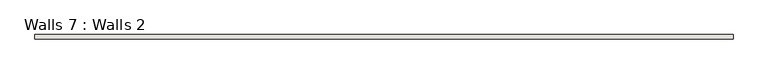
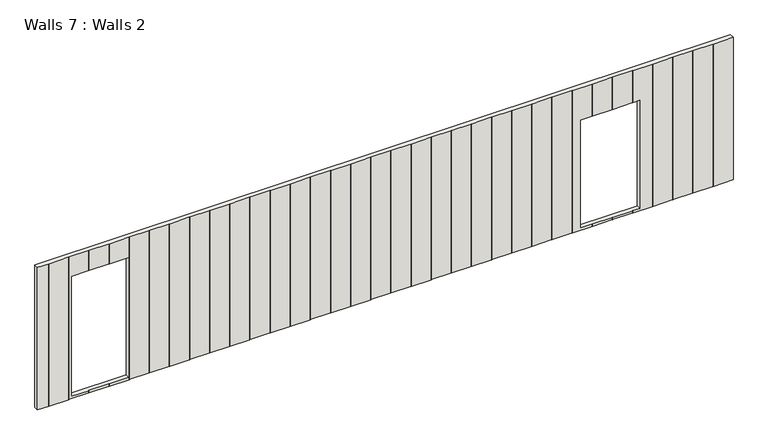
"""IFC4 building model written with IfcOpenShell, lengths in millimetres: wall geometry, Walls 7 : Walls 2."""

from ifc_helpers import new_model, si_unit, origin, place, context, project, spatial, faceted_brep, source, transform, mapped, element, save


def walls_7_walls_2_cd0bb462(model_context):
    return source(origin(), model_context, "Body", "Brep", [
        faceted_brep([(19718.9536405, 537.3490616, 3311.0), (6006.9536405, 537.3490616, 3311.0), (6006.9536405, 450.3490616, 3311.0), (6225.0336405, 450.3490616, 3311.0), (6226.9136405, 448.4690616, 3311.0), (6228.7936405, 450.3490616, 3311.0), (6621.9136405, 450.3490616, 3311.0), (6623.7936405, 448.4690616, 3311.0), (6625.6736405, 450.3490616, 3311.0), (7018.7936405, 450.3490616, 3311.0), (7020.6736405, 448.4690616, 3311.0), (7022.5536405, 450.3490616, 3311.0), (7415.6736405, 450.3490616, 3311.0), (7417.5536405, 448.4690616, 3311.0), (7419.4336405, 450.3490616, 3311.0), (7812.5536405, 450.3490616, 3311.0), (7814.4336405, 448.4690616, 3311.0), (7816.3136405, 450.3490616, 3311.0), (8209.4336405, 450.3490616, 3311.0), (8211.3136405, 448.4690616, 3311.0), (8213.1936405, 450.3490616, 3311.0), (8606.3136405, 450.3490616, 3311.0), (8608.1936405, 448.4690616, 3311.0), (8610.0736405, 450.3490616, 3311.0), (9003.1936405, 450.3490616, 3311.0), (9005.0736405, 448.4690616, 3311.0), (9006.9536405, 450.3490616, 3311.0), (9400.0736405, 450.3490616, 3311.0), (9401.9536405, 448.4690616, 3311.0), (9403.8336405, 450.3490616, 3311.0), (9796.9536405, 450.3490616, 3311.0), (9798.8336405, 448.4690616, 3311.0), (9800.7136405, 450.3490616, 3311.0), (10193.8336405, 450.3490616, 3311.0), (10195.7136405, 448.4690616, 3311.0), (10197.5936405, 450.3490616, 3311.0), (10590.7136405, 450.3490616, 3311.0), (10592.5936405, 448.4690616, 3311.0), (10594.4736405, 450.3490616, 3311.0), (10987.5936405, 450.3490616, 3311.0), (10989.4736405, 448.4690616, 3311.0), (10991.3536405, 450.3490616, 3311.0), (11384.4736405, 450.3490616, 3311.0), (11386.3536405, 448.4690616, 3311.0), (11388.2336405, 450.3490616, 3311.0), (11781.3536405, 450.3490616, 3311.0), (11783.2336405, 448.4690616, 3311.0), (11785.1136405, 450.3490616, 3311.0), (12178.2336405, 450.3490616, 3311.0), (12180.1136405, 448.4690616, 3311.0), (12181.9936405, 450.3490616, 3311.0), (12575.1136405, 450.3490616, 3311.0), (12576.9936405, 448.4690616, 3311.0), (12578.8736405, 450.3490616, 3311.0), (12971.9936405, 450.3490616, 3311.0), (12973.8736405, 448.4690616, 3311.0), (12975.7536405, 450.3490616, 3311.0), (13368.8736405, 450.3490616, 3311.0), (13370.7536405, 448.4690616, 3311.0), (13372.6336405, 450.3490616, 3311.0), (13765.7536405, 450.3490616, 3311.0), (13767.6336405, 448.4690616, 3311.0), (13769.5136405, 450.3490616, 3311.0), (14162.6336405, 450.3490616, 3311.0), (14164.5136405, 448.4690616, 3311.0), (14166.3936405, 450.3490616, 3311.0), (14559.5136405, 450.3490616, 3311.0), (14561.3936405, 448.4690616, 3311.0), (14563.2736405, 450.3490616, 3311.0), (14956.3936405, 450.3490616, 3311.0), (14958.2736405, 448.4690616, 3311.0), (14960.1536405, 450.3490616, 3311.0), (15353.2736405, 450.3490616, 3311.0), (15355.1536405, 448.4690616, 3311.0), (15357.0336405, 450.3490616, 3311.0), (15750.1536405, 450.3490616, 3311.0), (15752.0336405, 448.4690616, 3311.0), (15753.9136405, 450.3490616, 3311.0), (16147.0336405, 450.3490616, 3311.0), (16148.9136405, 448.4690616, 3311.0), (16150.7936405, 450.3490616, 3311.0), (16543.9136405, 450.3490616, 3311.0), (16545.7936405, 448.4690616, 3311.0), (16547.6736405, 450.3490616, 3311.0), (16940.7936405, 450.3490616, 3311.0), (16942.6736405, 448.4690616, 3311.0), (16944.5536405, 450.3490616, 3311.0), (17337.6736405, 450.3490616, 3311.0), (17339.5536405, 448.4690616, 3311.0), (17341.4336405, 450.3490616, 3311.0), (17734.5536405, 450.3490616, 3311.0), (17736.4336405, 448.4690616, 3311.0), (17738.3136405, 450.3490616, 3311.0), (18131.4336405, 450.3490616, 3311.0), (18133.3136405, 448.4690616, 3311.0), (18135.1936405, 450.3490616, 3311.0), (18528.3136405, 450.3490616, 3311.0), (18530.1936405, 448.4690616, 3311.0), (18532.0736405, 450.3490616, 3311.0), (18925.1936405, 450.3490616, 3311.0), (18927.0736405, 448.4690616, 3311.0), (18928.9536405, 450.3490616, 3311.0), (19322.0736405, 450.3490616, 3311.0), (19323.9536405, 448.4690616, 3311.0), (19325.8336405, 450.3490616, 3311.0), (19718.9536405, 450.3490616, 3311.0), (6006.9536405, 537.3490616, 340.0), (19718.9536405, 537.3490616, 340.0), (19718.9536405, 450.3490616, 340.0), (19325.8336405, 450.3490616, 340.0), (19323.9536405, 448.4690616, 340.0), (19322.0736405, 450.3490616, 340.0), (18928.9536405, 450.3490616, 340.0), (18927.0736405, 448.4690616, 340.0), (18925.1936405, 450.3490616, 340.0), (18532.0736405, 450.3490616, 340.0), (18530.1936405, 448.4690616, 340.0), (18528.3136405, 450.3490616, 340.0), (18135.1936405, 450.3490616, 340.0), (18133.3136405, 448.4690616, 340.0), (18131.4336405, 450.3490616, 340.0), (17738.3136405, 450.3490616, 340.0), (17736.4336405, 448.4690616, 340.0), (17734.5536405, 450.3490616, 340.0), (17341.4336405, 450.3490616, 340.0), (17339.5536405, 448.4690616, 340.0), (17337.6736405, 450.3490616, 340.0), (16944.5536405, 450.3490616, 340.0), (16942.6736405, 448.4690616, 340.0), (16940.7936405, 450.3490616, 340.0), (16547.6736405, 450.3490616, 340.0), (16545.7936405, 448.4690616, 340.0), (16543.9136405, 450.3490616, 340.0), (16150.7936405, 450.3490616, 340.0), (16148.9136405, 448.4690616, 340.0), (16147.0336405, 450.3490616, 340.0), (15753.9136405, 450.3490616, 340.0), (15752.0336405, 448.4690616, 340.0), (15750.1536405, 450.3490616, 340.0), (15357.0336405, 450.3490616, 340.0), (15355.1536405, 448.4690616, 340.0), (15353.2736405, 450.3490616, 340.0), (14960.1536405, 450.3490616, 340.0), (14958.2736405, 448.4690616, 340.0), (14956.3936405, 450.3490616, 340.0), (14563.2736405, 450.3490616, 340.0), (14561.3936405, 448.4690616, 340.0), (14559.5136405, 450.3490616, 340.0), (14166.3936405, 450.3490616, 340.0), (14164.5136405, 448.4690616, 340.0), (14162.6336405, 450.3490616, 340.0), (13769.5136405, 450.3490616, 340.0), (13767.6336405, 448.4690616, 340.0), (13765.7536405, 450.3490616, 340.0), (13372.6336405, 450.3490616, 340.0), (13370.7536405, 448.4690616, 340.0), (13368.8736405, 450.3490616, 340.0), (12975.7536405, 450.3490616, 340.0), (12973.8736405, 448.4690616, 340.0), (12971.9936405, 450.3490616, 340.0), (12578.8736405, 450.3490616, 340.0), (12576.9936405, 448.4690616, 340.0), (12575.1136405, 450.3490616, 340.0), (12181.9936405, 450.3490616, 340.0), (12180.1136405, 448.4690616, 340.0), (12178.2336405, 450.3490616, 340.0), (11785.1136405, 450.3490616, 340.0), (11783.2336405, 448.4690616, 340.0), (11781.3536405, 450.3490616, 340.0), (11388.2336405, 450.3490616, 340.0), (11386.3536405, 448.4690616, 340.0), (11384.4736405, 450.3490616, 340.0), (10991.3536405, 450.3490616, 340.0), (10989.4736405, 448.4690616, 340.0), (10987.5936405, 450.3490616, 340.0), (10594.4736405, 450.3490616, 340.0), (10592.5936405, 448.4690616, 340.0), (10590.7136405, 450.3490616, 340.0), (10197.5936405, 450.3490616, 340.0), (10195.7136405, 448.4690616, 340.0), (10193.8336405, 450.3490616, 340.0), (9800.7136405, 450.3490616, 340.0), (9798.8336405, 448.4690616, 340.0), (9796.9536405, 450.3490616, 340.0), (9403.8336405, 450.3490616, 340.0), (9401.9536405, 448.4690616, 340.0), (9400.0736405, 450.3490616, 340.0), (9006.9536405, 450.3490616, 340.0), (9005.0736405, 448.4690616, 340.0), (9003.1936405, 450.3490616, 340.0), (8610.0736405, 450.3490616, 340.0), (8608.1936405, 448.4690616, 340.0), (8606.3136405, 450.3490616, 340.0), (8213.1936405, 450.3490616, 340.0), (8211.3136405, 448.4690616, 340.0), (8209.4336405, 450.3490616, 340.0), (7816.3136405, 450.3490616, 340.0), (7814.4336405, 448.4690616, 340.0), (7812.5536405, 450.3490616, 340.0), (7419.4336405, 450.3490616, 340.0), (7417.5536405, 448.4690616, 340.0), (7415.6736405, 450.3490616, 340.0), (7022.5536405, 450.3490616, 340.0), (7020.6736405, 448.4690616, 340.0), (7018.7936405, 450.3490616, 340.0), (6625.6736405, 450.3490616, 340.0), (6623.7936405, 448.4690616, 340.0), (6621.9136405, 450.3490616, 340.0), (6228.7936405, 450.3490616, 340.0), (6226.9136405, 448.4690616, 340.0), (6225.0336405, 450.3490616, 340.0), (6006.9536405, 450.3490616, 340.0), (6672.4896405, 537.3490616, 2891.3882081), (6672.4896405, 537.3490616, 387.5), (7805.2660568, 537.3490616, 387.5), (7805.2660568, 537.3490616, 2891.3882081), (16703.354026, 537.3490616, 2641.5), (16703.354026, 537.3490616, 387.5), (17878.354026, 537.3490616, 387.5), (17878.354026, 537.3490616, 2641.5), (7018.7936405, 450.3490616, 387.5), (6672.4896405, 450.3490616, 387.5), (6672.4896405, 450.3490616, 2891.3882081), (7018.7936405, 450.3490616, 2891.3882081), (7020.6736405, 448.4690616, 2891.3882081), (7020.6736405, 448.4690616, 387.5), (7022.5536405, 450.3490616, 2891.3882081), (7022.5536405, 450.3490616, 387.5), (7415.6736405, 450.3490616, 2891.3882081), (7415.6736405, 450.3490616, 387.5), (7417.5536405, 448.4690616, 2891.3882081), (7417.5536405, 448.4690616, 387.5), (7419.4336405, 450.3490616, 2891.3882081), (7419.4336405, 450.3490616, 387.5), (7805.2660568, 450.3490616, 2891.3882081), (7805.2660568, 450.3490616, 387.5), (16940.7936405, 450.3490616, 387.5), (16703.354026, 450.3490616, 387.5), (16703.354026, 450.3490616, 2641.5), (16940.7936405, 450.3490616, 2641.5), (16942.6736405, 448.4690616, 2641.5), (16942.6736405, 448.4690616, 387.5), (16944.5536405, 450.3490616, 2641.5), (16944.5536405, 450.3490616, 387.5), (17337.6736405, 450.3490616, 2641.5), (17337.6736405, 450.3490616, 387.5), (17339.5536405, 448.4690616, 2641.5), (17339.5536405, 448.4690616, 387.5), (17341.4336405, 450.3490616, 2641.5), (17341.4336405, 450.3490616, 387.5), (17734.5536405, 450.3490616, 2641.5), (17734.5536405, 450.3490616, 387.5), (17736.4336405, 448.4690616, 2641.5), (17736.4336405, 448.4690616, 387.5), (17738.3136405, 450.3490616, 2641.5), (17738.3136405, 450.3490616, 387.5), (17878.354026, 450.3490616, 2641.5), (17878.354026, 450.3490616, 387.5)], [[[0, 1, 2, 3, 4, 5, 6, 7, 8, 9, 10, 11, 12, 13, 14, 15, 16, 17, 18, 19, 20, 21, 22, 23, 24, 25, 26, 27, 28, 29, 30, 31, 32, 33, 34, 35, 36, 37, 38, 39, 40, 41, 42, 43, 44, 45, 46, 47, 48, 49, 50, 51, 52, 53, 54, 55, 56, 57, 58, 59, 60, 61, 62, 63, 64, 65, 66, 67, 68, 69, 70, 71, 72, 73, 74, 75, 76, 77, 78, 79, 80, 81, 82, 83, 84, 85, 86, 87, 88, 89, 90, 91, 92, 93, 94, 95, 96, 97, 98, 99, 100, 101, 102, 103, 104, 105]], [[106, 107, 108, 109, 110, 111, 112, 113, 114, 115, 116, 117, 118, 119, 120, 121, 122, 123, 124, 125, 126, 127, 128, 129, 130, 131, 132, 133, 134, 135, 136, 137, 138, 139, 140, 141, 142, 143, 144, 145, 146, 147, 148, 149, 150, 151, 152, 153, 154, 155, 156, 157, 158, 159, 160, 161, 162, 163, 164, 165, 166, 167, 168, 169, 170, 171, 172, 173, 174, 175, 176, 177, 178, 179, 180, 181, 182, 183, 184, 185, 186, 187, 188, 189, 190, 191, 192, 193, 194, 195, 196, 197, 198, 199, 200, 201, 202, 203, 204, 205, 206, 207, 208, 209, 210, 211]], [[107, 106, 1, 0], [212, 213, 214, 215], [216, 217, 218, 219]], [[106, 211, 2, 1]], [[0, 105, 108, 107]], [[3, 2, 211, 210]], [[4, 3, 210, 209]], [[5, 4, 209, 208]], [[6, 5, 208, 207]], [[7, 6, 207, 206]], [[8, 7, 206, 205]], [[9, 8, 205, 204, 220, 221, 222, 223]], [[10, 9, 223, 224]], [[204, 203, 225, 220]], [[11, 10, 224, 226]], [[203, 202, 227, 225]], [[12, 11, 226, 228]], [[202, 201, 229, 227]], [[13, 12, 228, 230]], [[201, 200, 231, 229]], [[14, 13, 230, 232]], [[200, 199, 233, 231]], [[15, 14, 232, 234, 235, 233, 199, 198]], [[16, 15, 198, 197]], [[17, 16, 197, 196]], [[18, 17, 196, 195]], [[19, 18, 195, 194]], [[20, 19, 194, 193]], [[21, 20, 193, 192]], [[22, 21, 192, 191]], [[23, 22, 191, 190]], [[24, 23, 190, 189]], [[25, 24, 189, 188]], [[26, 25, 188, 187]], [[27, 26, 187, 186]], [[28, 27, 186, 185]], [[29, 28, 185, 184]], [[30, 29, 184, 183]], [[31, 30, 183, 182]], [[32, 31, 182, 181]], [[33, 32, 181, 180]], [[34, 33, 180, 179]], [[35, 34, 179, 178]], [[36, 35, 178, 177]], [[37, 36, 177, 176]], [[38, 37, 176, 175]], [[39, 38, 175, 174]], [[40, 39, 174, 173]], [[41, 40, 173, 172]], [[42, 41, 172, 171]], [[43, 42, 171, 170]], [[44, 43, 170, 169]], [[45, 44, 169, 168]], [[46, 45, 168, 167]], [[47, 46, 167, 166]], [[48, 47, 166, 165]], [[49, 48, 165, 164]], [[50, 49, 164, 163]], [[51, 50, 163, 162]], [[52, 51, 162, 161]], [[53, 52, 161, 160]], [[54, 53, 160, 159]], [[55, 54, 159, 158]], [[56, 55, 158, 157]], [[57, 56, 157, 156]], [[58, 57, 156, 155]], [[59, 58, 155, 154]], [[60, 59, 154, 153]], [[61, 60, 153, 152]], [[62, 61, 152, 151]], [[63, 62, 151, 150]], [[64, 63, 150, 149]], [[65, 64, 149, 148]], [[66, 65, 148, 147]], [[67, 66, 147, 146]], [[68, 67, 146, 145]], [[69, 68, 145, 144]], [[70, 69, 144, 143]], [[71, 70, 143, 142]], [[72, 71, 142, 141]], [[73, 72, 141, 140]], [[74, 73, 140, 139]], [[75, 74, 139, 138]], [[76, 75, 138, 137]], [[77, 76, 137, 136]], [[78, 77, 136, 135]], [[79, 78, 135, 134]], [[80, 79, 134, 133]], [[81, 80, 133, 132]], [[82, 81, 132, 131]], [[83, 82, 131, 130]], [[84, 83, 130, 129, 236, 237, 238, 239]], [[85, 84, 239, 240]], [[129, 128, 241, 236]], [[86, 85, 240, 242]], [[128, 127, 243, 241]], [[87, 86, 242, 244]], [[127, 126, 245, 243]], [[88, 87, 244, 246]], [[126, 125, 247, 245]], [[89, 88, 246, 248]], [[125, 124, 249, 247]], [[90, 89, 248, 250]], [[124, 123, 251, 249]], [[91, 90, 250, 252]], [[123, 122, 253, 251]], [[92, 91, 252, 254]], [[122, 121, 255, 253]], [[93, 92, 254, 256, 257, 255, 121, 120]], [[94, 93, 120, 119]], [[95, 94, 119, 118]], [[96, 95, 118, 117]], [[97, 96, 117, 116]], [[98, 97, 116, 115]], [[99, 98, 115, 114]], [[100, 99, 114, 113]], [[101, 100, 113, 112]], [[102, 101, 112, 111]], [[103, 102, 111, 110]], [[104, 103, 110, 109]], [[105, 104, 109, 108]], [[221, 213, 212, 222]], [[222, 212, 215, 234, 232, 230, 228, 226, 224, 223]], [[234, 215, 214, 235]], [[213, 221, 220, 225, 227, 229, 231, 233, 235, 214]], [[237, 217, 216, 238]], [[238, 216, 219, 256, 254, 252, 250, 248, 246, 244, 242, 240, 239]], [[256, 219, 218, 257]], [[217, 237, 236, 241, 243, 245, 247, 249, 251, 253, 255, 257, 218]]]),
    ])


if __name__ == "__main__":
    model = new_model("IFC4")
    model_context = context("Model", 3, world=origin())
    ifc_project = project(units=[si_unit("LENGTHUNIT", "METRE", prefix="MILLI")], contexts=[model_context])
    site = spatial("IfcSite", under=ifc_project)
    building = spatial("IfcBuilding", under=site)
    placement = place(None, origin())
    walls_7_walls_2_shape = walls_7_walls_2_cd0bb462(model_context)
    element("IfcWall", 1, ObjectType="Walls 7 : Walls 2", at=placement, inside=building, context=model_context, shape_type="MappedRepresentation", body=[
        mapped(walls_7_walls_2_shape, transform((0.0, 0.0, 0.0), x_axis=(1.0, 0.0, 0.0), y_axis=(0.0, 1.0, 0.0), z_axis=(0.0, 0.0, 1.0))),
    ])
    save(model, "model.ifc")
